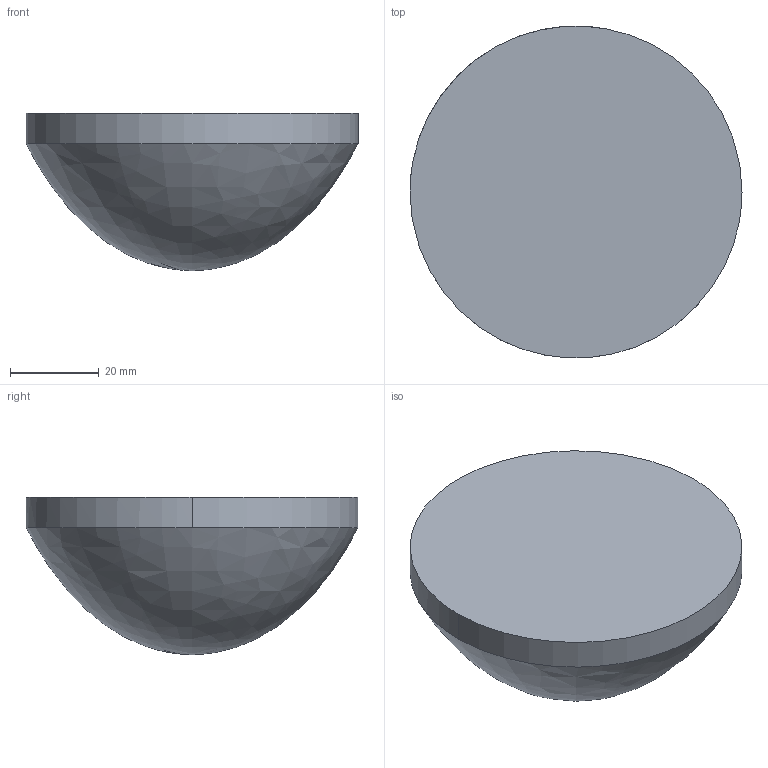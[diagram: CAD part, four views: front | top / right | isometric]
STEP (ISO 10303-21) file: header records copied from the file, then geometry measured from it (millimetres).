
FILE_DESCRIPTION ((), '1');
FILE_NAME ('\\fileserver\Daten\Applikationen\Optikdesign\SPA-Design\aktuelle SPA-Designs\Linsenkataloge - 2016-Juni\Zemax\ALL\ALL75-60.STP', '2016-05-24T14:21:28', ('Unknown'), ('Unknown'), 'HarmonyWare STEP v2.0.1', 'HarmonyWare Translators', '');
FILE_SCHEMA (('CONFIG_CONTROL_DESIGN'));
Length unit declared in the file: millimetre
Products named in the file (1): NONE
Bounding box: 75 x 74.95 x 35.5 mm (x, y, z)
Volume: 98619.6 mm3; surface area: 12675.8 mm2
Topology: 1 solids, 1 shells, 4 faces, 9 edges, 6 vertices
Faces by surface type: cylinder 2, bspline 1, plane 1
Entity records: 395 total; most frequent: CARTESIAN_POINT 244, ORIENTED_EDGE 16, EDGE_CURVE 8, PERSON 8, ORGANIZATION 8, PERSON_AND_ORGANIZATION 8, VERTEX_POINT 6, DIRECTION 6
